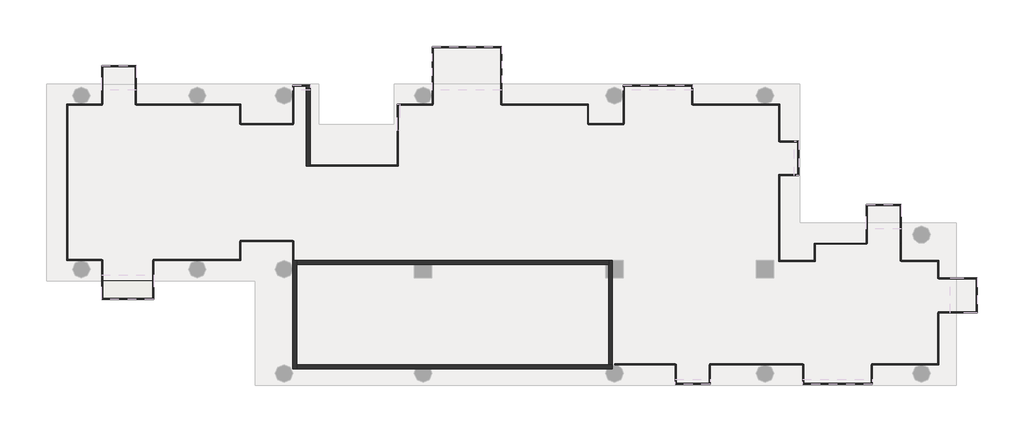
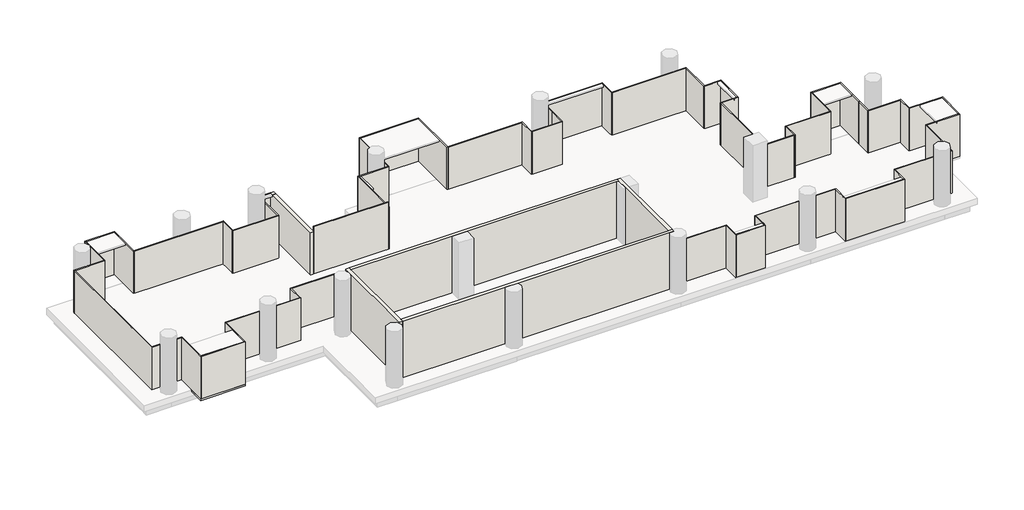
# One storey, part 1 of 2: 64 walls, 2 slabs.
"""IFC4 building model written with IfcOpenShell, lengths in millimetres."""

from ifc_helpers import new_model, si_unit, frame, origin, place, context, project, spatial, polyline, outline, extrude, faceted_brep, element, save

model = new_model("IFC4")

# Units and contexts
model_context = context("Model", 3, world=origin())
ifc_project = project(units=[si_unit("LENGTHUNIT", "METRE", prefix="MILLI")], contexts=[model_context])

# Site, building, storey
site = spatial("IfcSite", under=ifc_project)
building = spatial("IfcBuilding", under=site)
storey = spatial("IfcBuildingStorey", under=building, Name="TW-L 14", Elevation=49599.9999686)

# Slabs
placement = place(None, origin())
element("IfcSlab", 1, ObjectType="AJN-ARC-SLAB-10cm", at=placement, inside=storey, context=model_context, shape_type="SweptSolid", body=[
    extrude(outline(polyline([(105847.1743518, 28750.0), (103147.1743518, 28750.0), (103147.1743518, 29700.0), (105847.1743518, 29700.0), (105847.1743518, 28750.0)])), frame((0.0, 0.0, 49499.9999686), z_axis=(0.0, 0.0, 1.0), x_axis=(1.0, 0.0, 0.0)), (0.0, 0.0, 1.0), 100.0),
])
element("IfcSlab", 2, ObjectType="AJN-ARC-SLAB-10cm", at=placement, inside=storey, context=model_context, shape_type="SweptSolid", body=[
    extrude(outline(polyline([(105847.1743518, 28750.0), (103147.1743518, 28750.0), (103147.1743518, 29700.0), (105847.1743518, 29700.0), (105847.1743518, 28750.0)])), frame((0.0, 0.0, 49499.9999686), z_axis=(0.0, 0.0, 1.0), x_axis=(1.0, 0.0, 0.0)), (0.0, 0.0, 1.0), 100.0),
])

# Walls
element("IfcWall", 3, ObjectType="AJN-ARC-CONCRETE WALL-20cm", at=placement, inside=storey, context=model_context, shape_type="Brep", body=[
    faceted_brep([(113050.0, 30750.0, 53199.9999686), (113050.0, 30750.0, 49599.9999686), (113050.0, 25150.0, 49599.9999686), (113050.0, 25150.0, 53199.9999686), (113250.0, 30750.0, 49599.9999686), (113250.0, 30750.0, 53199.9999686), (113250.0, 30550.0, 53199.9999686), (113250.0, 25350.0, 53199.9999686), (113250.0, 25150.0, 53199.9999686), (113250.0, 25150.0, 49599.9999686), (113250.0, 25350.0, 49599.9999686), (113250.0, 30550.0, 49599.9999686), (113097.1743518, 30750.0, 49599.9999686)], [[[0, 1, 2, 3]], [[4, 5, 6, 7, 8, 9, 10, 11]], [[2, 1, 12, 4, 11, 10, 9]], [[0, 3, 8, 7, 6, 5]], [[3, 2, 9, 8]], [[0, 5, 4, 12, 1]]]),
])
element("IfcWall", 4, ObjectType="AJN-ARC-CONCRETE WALL-20cm", at=placement, inside=storey, context=model_context, shape_type="Brep", body=[
    faceted_brep([(113250.0, 25150.0, 49599.9999686), (119425.8342613, 25150.0, 49599.9999686), (120174.1657387, 25150.0, 49599.9999686), (129325.8342613, 25150.0, 49599.9999686), (129600.0, 25150.0, 49599.9999686), (129600.0, 25150.0, 53199.9999686), (129325.8342613, 25150.0, 53199.9999686), (120174.1657387, 25150.0, 53199.9999686), (119425.8342613, 25150.0, 53199.9999686), (113250.0, 25150.0, 53199.9999686), (113250.0, 25350.0, 49599.9999686), (113250.0, 25350.0, 53199.9999686), (129400.0, 25350.0, 53199.9999686), (129600.0, 25350.0, 53199.9999686), (129600.0, 25350.0, 49599.9999686), (129400.0, 25350.0, 49599.9999686), (129600.0, 25338.7482194, 49599.9999686), (129600.0, 25338.7482194, 53199.9999686)], [[[0, 1, 2, 3, 4, 5, 6, 7, 8, 9]], [[10, 11, 12, 13, 14, 15]], [[4, 3, 2, 1, 0, 10, 15, 14, 16]], [[9, 8, 7, 6, 5, 17, 13, 12, 11]], [[5, 4, 16, 14, 13, 17]], [[0, 9, 11, 10]]]),
])
element("IfcWall", 5, ObjectType="AJN-ARC-CONCRETE WALL-20cm", at=placement, inside=storey, context=model_context, shape_type="Brep", body=[
    faceted_brep([(129600.0, 25350.0, 49599.9999686), (129600.0, 29850.0, 49599.9999686), (129600.0, 30750.0, 49599.9999686), (129600.0, 30750.0, 53199.9999686), (129600.0, 29850.0, 53199.9999686), (129600.0, 25350.0, 53199.9999686), (129400.0, 25350.0, 49599.9999686), (129400.0, 25350.0, 53199.9999686), (129400.0, 29850.0, 53199.9999686), (129400.0, 30550.0, 53199.9999686), (129400.0, 30750.0, 53199.9999686), (129400.0, 30750.0, 49599.9999686), (129400.0, 30550.0, 49599.9999686), (129400.0, 29850.0, 49599.9999686)], [[[0, 1, 2, 3, 4, 5]], [[6, 7, 8, 9, 10, 11, 12, 13]], [[2, 1, 0, 6, 13, 12, 11]], [[5, 4, 3, 10, 9, 8, 7]], [[3, 2, 11, 10]], [[0, 5, 7, 6]]]),
])
element("IfcWall", 6, ObjectType="AJN-ARC-CONCRETE WALL-20cm", at=placement, inside=storey, context=model_context, shape_type="Brep", body=[
    faceted_brep([(129400.0, 30750.0, 49599.9999686), (113250.0, 30750.0, 49599.9999686), (113250.0, 30750.0, 53199.9999686), (129400.0, 30750.0, 53199.9999686), (129400.0, 30550.0, 49599.9999686), (129400.0, 30550.0, 53199.9999686), (129250.0, 30550.0, 53199.9999686), (120250.0, 30550.0, 53199.9999686), (119350.0, 30550.0, 53199.9999686), (113250.0, 30550.0, 53199.9999686), (113250.0, 30550.0, 49599.9999686), (119350.0, 30550.0, 49599.9999686), (120250.0, 30550.0, 49599.9999686), (129250.0, 30550.0, 49599.9999686)], [[[0, 1, 2, 3]], [[4, 5, 6, 7, 8, 9, 10, 11, 12, 13]], [[1, 0, 4, 13, 12, 11, 10]], [[3, 2, 9, 8, 7, 6, 5]], [[0, 3, 5, 4]], [[1, 10, 9, 2]]]),
])
element("IfcWall", 7, ObjectType="AJN-ARC-CONCRETE WALL-20cm", at=placement, inside=storey, context=model_context, shape_type="Brep", body=[
    faceted_brep([(113950.0, 35650.0, 49599.9999686), (113950.0, 39850.0, 49599.9999686), (113950.0, 39850.0, 52299.9999686), (113950.0, 35650.0, 52299.9999686), (113750.0, 35650.0, 49599.9999686), (113750.0, 35650.0, 52299.9999686), (113750.0, 39800.0, 52299.9999686), (113750.0, 39850.0, 52299.9999686), (113750.0, 39850.0, 49599.9999686), (113750.0, 39800.0, 49599.9999686)], [[[0, 1, 2, 3]], [[4, 5, 6, 7, 8, 9]], [[1, 0, 4, 9, 8]], [[3, 2, 7, 6, 5]], [[0, 3, 5, 4]], [[2, 1, 8, 7]]]),
])
element("IfcWall", 8, ObjectType="AJN-ARC-GLASS-50mm", at=placement, inside=storey, context=model_context, shape_type="SweptSolid", body=[
    extrude(outline(polyline([(113100.0, 39850.0), (113750.0, 39850.0), (113750.0, 39800.0), (113100.0, 39800.0), (113100.0, 39850.0)])), frame((0.0, 0.0, 49599.9999686), z_axis=(0.0, 0.0, 1.0), x_axis=(1.0, 0.0, 0.0)), (0.0, 0.0, 1.0), 2700.0),
])
element("IfcWall", 9, ObjectType="AJN-ARC-GLASS-50mm", at=placement, inside=storey, context=model_context, shape_type="Brep", body=[
    faceted_brep([(113050.0, 39850.0, 49599.9999686), (113050.0, 37850.0, 49599.9999686), (113050.0, 37850.0, 52299.9999686), (113050.0, 39850.0, 52299.9999686), (113100.0, 39850.0, 49599.9999686), (113100.0, 39850.0, 52299.9999686), (113100.0, 39800.0, 52299.9999686), (113100.0, 37850.0, 52299.9999686), (113100.0, 37850.0, 49599.9999686), (113100.0, 39800.0, 49599.9999686)], [[[0, 1, 2, 3]], [[4, 5, 6, 7, 8, 9]], [[1, 0, 4, 9, 8]], [[2, 1, 8, 7]], [[3, 2, 7, 6, 5]], [[0, 3, 5, 4]]]),
])
element("IfcWall", 10, ObjectType="AJN-ARC-GLASS-50mm", at=placement, inside=storey, context=model_context, shape_type="SweptSolid", body=[
    extrude(outline(polyline([(110350.0, 37850.0), (113075.0, 37850.0), (113075.0, 37800.0), (110350.0, 37800.0), (110350.0, 37850.0)])), frame((0.0, 0.0, 49599.9999686), z_axis=(0.0, 0.0, 1.0), x_axis=(1.0, 0.0, 0.0)), (0.0, 0.0, 1.0), 2700.0),
])
element("IfcWall", 11, ObjectType="AJN-ARC-GLASS-50mm", at=placement, inside=storey, context=model_context, shape_type="Brep", body=[
    faceted_brep([(110350.0, 37825.0, 49599.9999686), (110350.0, 38850.0, 49599.9999686), (110350.0, 38850.0, 52299.9999686), (110350.0, 37825.0, 52299.9999686), (110300.0, 37825.0, 49599.9999686), (110300.0, 37825.0, 52299.9999686), (110300.0, 38800.0, 52299.9999686), (110300.0, 38850.0, 52299.9999686), (110300.0, 38850.0, 49599.9999686), (110300.0, 38800.0, 49599.9999686)], [[[0, 1, 2, 3]], [[4, 5, 6, 7, 8, 9]], [[1, 0, 4, 9, 8]], [[3, 2, 7, 6, 5]], [[0, 3, 5, 4]], [[2, 1, 8, 7]]]),
])
element("IfcWall", 12, ObjectType="AJN-ARC-GLASS-50mm", at=placement, inside=storey, context=model_context, shape_type="SweptSolid", body=[
    extrude(outline(polyline([(104950.0, 38850.0), (110300.0, 38850.0), (110300.0, 38800.0), (104950.0, 38800.0), (104950.0, 38850.0)])), frame((0.0, 0.0, 49599.9999686), z_axis=(0.0, 0.0, 1.0), x_axis=(1.0, 0.0, 0.0)), (0.0, 0.0, 1.0), 2700.0),
])
element("IfcWall", 13, ObjectType="AJN-ARC-GLASS-50mm", at=placement, inside=storey, context=model_context, shape_type="Brep", body=[
    faceted_brep([(104950.0, 38825.0, 49599.9999686), (104950.0, 40850.0, 49599.9999686), (104950.0, 40850.0, 52299.9999686), (104950.0, 38825.0, 52299.9999686), (104900.0, 38825.0, 49599.9999686), (104900.0, 38825.0, 52299.9999686), (104900.0, 40800.0, 52299.9999686), (104900.0, 40850.0, 52299.9999686), (104900.0, 40850.0, 49599.9999686), (104900.0, 40800.0, 49599.9999686)], [[[0, 1, 2, 3]], [[4, 5, 6, 7, 8, 9]], [[1, 0, 4, 9, 8]], [[3, 2, 7, 6, 5]], [[0, 3, 5, 4]], [[2, 1, 8, 7]]]),
])
element("IfcWall", 14, ObjectType="AJN-ARC-GLASS-50mm", at=placement, inside=storey, context=model_context, shape_type="Brep", body=[
    faceted_brep([(104900.0, 40850.0, 49599.9999686), (103150.0, 40850.0, 49599.9999686), (103150.0, 40850.0, 52299.9999686), (104900.0, 40850.0, 52299.9999686), (104900.0, 40800.0, 49599.9999686), (104900.0, 40800.0, 52299.9999686), (103200.0, 40800.0, 52299.9999686), (103150.0, 40800.0, 52299.9999686), (103150.0, 40800.0, 49599.9999686), (103200.0, 40800.0, 49599.9999686)], [[[0, 1, 2, 3]], [[4, 5, 6, 7, 8, 9]], [[1, 0, 4, 9, 8]], [[3, 2, 7, 6, 5]], [[2, 1, 8, 7]], [[0, 3, 5, 4]]]),
])
element("IfcWall", 15, ObjectType="AJN-ARC-GLASS-50mm", at=placement, inside=storey, context=model_context, shape_type="SweptSolid", body=[
    extrude(outline(polyline([(103150.0, 38850.0), (103150.0, 40800.0), (103200.0, 40800.0), (103200.0, 38850.0), (103150.0, 38850.0)])), frame((0.0, 0.0, 49599.9999686), z_axis=(0.0, 0.0, 1.0), x_axis=(1.0, 0.0, 0.0)), (0.0, 0.0, 1.0), 2700.0),
])
element("IfcWall", 16, ObjectType="AJN-ARC-GLASS-50mm", at=placement, inside=storey, context=model_context, shape_type="Brep", body=[
    faceted_brep([(103175.000016, 38849.999984, 49599.9999686), (101347.1743518, 38850.001152, 49599.9999686), (101347.1743518, 38850.001152, 52299.9999686), (103175.000016, 38849.999984, 52299.9999686), (103174.999984, 38799.999984, 49599.9999686), (103174.999984, 38799.999984, 52299.9999686), (101397.1743518, 38800.00112, 52299.9999686), (101347.1743518, 38800.001152, 52299.9999686), (101347.1743518, 38800.001152, 49599.9999686), (101397.1743518, 38800.00112, 49599.9999686)], [[[0, 1, 2, 3]], [[4, 5, 6, 7, 8, 9]], [[1, 0, 4, 9, 8]], [[3, 2, 7, 6, 5]], [[0, 3, 5, 4]], [[2, 1, 8, 7]]]),
])
element("IfcWall", 17, ObjectType="AJN-ARC-GLASS-50mm", at=placement, inside=storey, context=model_context, shape_type="Brep", body=[
    faceted_brep([(101347.1743518, 38800.001152, 49599.9999686), (101347.1743518, 30750.0, 49599.9999686), (101347.1743518, 30750.0, 52299.9999686), (101347.1743518, 38800.001152, 52299.9999686), (101397.1743518, 38800.00112, 49599.9999686), (101397.1743518, 38800.00112, 52299.9999686), (101397.1743518, 30800.0, 52299.9999686), (101397.1743518, 30750.0, 52299.9999686), (101397.1743518, 30750.0, 49599.9999686), (101397.1743518, 30800.0, 49599.9999686)], [[[0, 1, 2, 3]], [[4, 5, 6, 7, 8, 9]], [[1, 0, 4, 9, 8]], [[3, 2, 7, 6, 5]], [[2, 1, 8, 7]], [[0, 3, 5, 4]]]),
])
element("IfcWall", 18, ObjectType="AJN-ARC-GLASS-50mm", at=placement, inside=storey, context=model_context, shape_type="SweptSolid", body=[
    extrude(outline(polyline([(103147.1743518, 30750.0), (101397.1743518, 30750.0), (101397.1743518, 30800.0), (103147.1743518, 30800.0), (103147.1743518, 30750.0)])), frame((0.0, 0.0, 49599.9999686), z_axis=(0.0, 0.0, 1.0), x_axis=(1.0, 0.0, 0.0)), (0.0, 0.0, 1.0), 2700.0),
])
element("IfcWall", 19, ObjectType="AJN-ARC-GLASS-50mm", at=placement, inside=storey, context=model_context, shape_type="Brep", body=[
    faceted_brep([(103147.1743518, 30775.0, 49599.9999686), (103147.1743518, 28750.0, 49599.9999686), (103147.1743518, 28750.0, 52299.9999686), (103147.1743518, 30775.0, 52299.9999686), (103197.1743518, 30775.0, 49599.9999686), (103197.1743518, 30775.0, 52299.9999686), (103197.1743518, 28800.0, 52299.9999686), (103197.1743518, 28750.0, 52299.9999686), (103197.1743518, 28750.0, 49599.9999686), (103197.1743518, 28800.0, 49599.9999686)], [[[0, 1, 2, 3]], [[4, 5, 6, 7, 8, 9]], [[1, 0, 4, 9, 8]], [[3, 2, 7, 6, 5]], [[0, 3, 5, 4]], [[2, 1, 8, 7]]]),
])
element("IfcWall", 20, ObjectType="AJN-ARC-GLASS-50mm", at=placement, inside=storey, context=model_context, shape_type="Brep", body=[
    faceted_brep([(103197.1743518, 28750.0, 49599.9999686), (105847.1743518, 28750.0, 49599.9999686), (105847.1743518, 28750.0, 52299.9999686), (103197.1743518, 28750.0, 52299.9999686), (103197.1743518, 28800.0, 49599.9999686), (103197.1743518, 28800.0, 52299.9999686), (105797.1743518, 28800.0, 52299.9999686), (105847.1743518, 28800.0, 52299.9999686), (105847.1743518, 28800.0, 49599.9999686), (105797.1743518, 28800.0, 49599.9999686)], [[[0, 1, 2, 3]], [[4, 5, 6, 7, 8, 9]], [[1, 0, 4, 9, 8]], [[3, 2, 7, 6, 5]], [[2, 1, 8, 7]], [[0, 3, 5, 4]]]),
])
element("IfcWall", 21, ObjectType="AJN-ARC-GLASS-50mm", at=placement, inside=storey, context=model_context, shape_type="SweptSolid", body=[
    extrude(outline(polyline([(105847.1743518, 30750.0), (105847.1743518, 28800.0), (105797.1743518, 28800.0), (105797.1743518, 30750.0), (105847.1743518, 30750.0)])), frame((0.0, 0.0, 49599.9999686), z_axis=(0.0, 0.0, 1.0), x_axis=(1.0, 0.0, 0.0)), (0.0, 0.0, 1.0), 2700.0),
])
element("IfcWall", 22, ObjectType="AJN-ARC-GLASS-50mm", at=placement, inside=storey, context=model_context, shape_type="Brep", body=[
    faceted_brep([(105822.1743518, 30750.0, 49599.9999686), (110347.1743518, 30750.0, 49599.9999686), (110347.1743518, 30750.0, 52299.9999686), (105822.1743518, 30750.0, 52299.9999686), (105822.1743518, 30800.0, 49599.9999686), (105822.1743518, 30800.0, 52299.9999686), (110297.1743518, 30800.0, 52299.9999686), (110347.1743518, 30800.0, 52299.9999686), (110347.1743518, 30800.0, 49599.9999686), (110297.1743518, 30800.0, 49599.9999686)], [[[0, 1, 2, 3]], [[4, 5, 6, 7, 8, 9]], [[1, 0, 4, 9, 8]], [[3, 2, 7, 6, 5]], [[0, 3, 5, 4]], [[2, 1, 8, 7]]]),
])
element("IfcWall", 23, ObjectType="AJN-ARC-GLASS-50mm", at=placement, inside=storey, context=model_context, shape_type="SweptSolid", body=[
    extrude(outline(polyline([(110347.1743518, 31750.0), (110347.1743518, 30800.0), (110297.1743518, 30800.0), (110297.1743518, 31750.0), (110347.1743518, 31750.0)])), frame((0.0, 0.0, 49599.9999686), z_axis=(0.0, 0.0, 1.0), x_axis=(1.0, 0.0, 0.0)), (0.0, 0.0, 1.0), 2700.0),
])
element("IfcWall", 24, ObjectType="AJN-ARC-GLASS-50mm", at=placement, inside=storey, context=model_context, shape_type="SweptSolid", body=[
    extrude(outline(polyline([(113047.1743518, 31750.0), (110322.1743518, 31750.0), (110322.1743518, 31800.0), (113047.1743518, 31800.0), (113047.1743518, 31750.0)])), frame((0.0, 0.0, 49599.9999686), z_axis=(0.0, 0.0, 1.0), x_axis=(1.0, 0.0, 0.0)), (0.0, 0.0, 1.0), 2700.0),
])
element("IfcWall", 25, ObjectType="AJN-ARC-GLASS-50mm", at=placement, inside=storey, context=model_context, shape_type="Brep", body=[
    faceted_brep([(113047.1743518, 31775.0, 49599.9999686), (113047.1743518, 30750.0, 49599.9999686), (113047.1743518, 30750.0, 52299.9999686), (113047.1743518, 31775.0, 52299.9999686), (113097.1743518, 31775.0, 49599.9999686), (113097.1743518, 31775.0, 52299.9999686), (113097.1743518, 30750.0, 52299.9999686), (113097.1743518, 30750.0, 49599.9999686), (113050.0, 30750.0, 49599.9999686)], [[[0, 1, 2, 3]], [[4, 5, 6, 7]], [[1, 0, 4, 7, 8]], [[3, 2, 6, 5]], [[0, 3, 5, 4]], [[2, 1, 8, 7, 6]]]),
])
element("IfcWall", 26, ObjectType="AJN-ARC-GLASS-50mm", at=placement, inside=storey, context=model_context, shape_type="Brep", body=[
    faceted_brep([(138250.0, 30700.0, 49599.9999686), (138250.0, 30750.0, 49599.9999686), (138250.0, 35150.0, 49599.9999686), (138250.0, 35150.0, 52299.9999686), (138250.0, 30750.0, 52299.9999686), (138250.0, 30700.0, 52299.9999686), (138200.0, 30700.0, 49599.9999686), (138200.0, 30700.0, 52299.9999686), (138200.0, 35150.0, 52299.9999686), (138200.0, 35150.0, 49599.9999686)], [[[0, 1, 2, 3, 4, 5]], [[6, 7, 8, 9]], [[2, 1, 0, 6, 9]], [[5, 4, 3, 8, 7]], [[0, 5, 7, 6]], [[3, 2, 9, 8]]]),
])
element("IfcWall", 27, ObjectType="AJN-ARC-GLASS-50mm", at=placement, inside=storey, context=model_context, shape_type="Brep", body=[
    faceted_brep([(138200.0, 35150.0, 49599.9999686), (138250.0, 35150.0, 49599.9999686), (139250.0, 35150.0, 49599.9999686), (139250.0, 35150.0, 52299.9999686), (138250.0, 35150.0, 52299.9999686), (138200.0, 35150.0, 52299.9999686), (138200.0, 35200.0, 49599.9999686), (138200.0, 35200.0, 52299.9999686), (139200.0, 35200.0, 52299.9999686), (139250.0, 35200.0, 52299.9999686), (139250.0, 35200.0, 49599.9999686), (139200.0, 35200.0, 49599.9999686)], [[[0, 1, 2, 3, 4, 5]], [[6, 7, 8, 9, 10, 11]], [[2, 1, 0, 6, 11, 10]], [[5, 4, 3, 9, 8, 7]], [[3, 2, 10, 9]], [[0, 5, 7, 6]]]),
])
element("IfcWall", 28, ObjectType="AJN-ARC-GLASS-50mm", at=placement, inside=storey, context=model_context, shape_type="Brep", body=[
    faceted_brep([(139250.0, 35200.0, 49599.9999686), (139250.0, 36950.0, 49599.9999686), (139250.0, 36950.0, 52299.9999686), (139250.0, 35200.0, 52299.9999686), (139200.0, 35200.0, 49599.9999686), (139200.0, 35200.0, 52299.9999686), (139200.0, 36900.0, 52299.9999686), (139200.0, 36950.0, 52299.9999686), (139200.0, 36950.0, 49599.9999686), (139200.0, 36900.0, 49599.9999686)], [[[0, 1, 2, 3]], [[4, 5, 6, 7, 8, 9]], [[1, 0, 4, 9, 8]], [[3, 2, 7, 6, 5]], [[2, 1, 8, 7]], [[0, 3, 5, 4]]]),
])
element("IfcWall", 29, ObjectType="AJN-ARC-GLASS-50mm", at=placement, inside=storey, context=model_context, shape_type="SweptSolid", body=[
    extrude(outline(polyline([(138250.0, 36950.0), (139200.0, 36950.0), (139200.0, 36900.0), (138250.0, 36900.0), (138250.0, 36950.0)])), frame((0.0, 0.0, 49599.9999686), z_axis=(0.0, 0.0, 1.0), x_axis=(1.0, 0.0, 0.0)), (0.0, 0.0, 1.0), 2700.0),
])
element("IfcWall", 30, ObjectType="AJN-ARC-GLASS-50mm", at=placement, inside=storey, context=model_context, shape_type="Brep", body=[
    faceted_brep([(138250.0, 36925.0, 49599.9999686), (138250.0, 38850.0, 49599.9999686), (138250.0, 38850.0, 52299.9999686), (138250.0, 36925.0, 52299.9999686), (138200.0, 36925.0, 49599.9999686), (138200.0, 36925.0, 52299.9999686), (138200.0, 38800.0, 52299.9999686), (138200.0, 38850.0, 52299.9999686), (138200.0, 38850.0, 49599.9999686), (138200.0, 38800.0, 49599.9999686)], [[[0, 1, 2, 3]], [[4, 5, 6, 7, 8, 9]], [[1, 0, 4, 9, 8]], [[3, 2, 7, 6, 5]], [[0, 3, 5, 4]], [[2, 1, 8, 7]]]),
])
element("IfcWall", 31, ObjectType="AJN-ARC-GLASS-50mm", at=placement, inside=storey, context=model_context, shape_type="SweptSolid", body=[
    extrude(outline(polyline([(133759.0442395, 38850.0), (138200.0, 38850.0), (138200.0, 38800.0), (133759.0442395, 38800.0), (133759.0442395, 38850.0)])), frame((0.0, 0.0, 49599.9999686), z_axis=(0.0, 0.0, 1.0), x_axis=(1.0, 0.0, 0.0)), (0.0, 0.0, 1.0), 2700.0),
])
element("IfcWall", 32, ObjectType="AJN-ARC-GLASS-50mm", at=placement, inside=storey, context=model_context, shape_type="Brep", body=[
    faceted_brep([(133759.0442395, 38825.0, 49599.9999686), (133759.0442395, 39850.0, 49599.9999686), (133759.0442395, 39850.0, 52299.9999686), (133759.0442395, 38825.0, 52299.9999686), (133709.0442395, 38825.0, 49599.9999686), (133709.0442395, 38825.0, 52299.9999686), (133709.0442395, 39800.0, 52299.9999686), (133709.0442395, 39850.0, 52299.9999686), (133709.0442395, 39850.0, 49599.9999686), (133709.0442395, 39800.0, 49599.9999686)], [[[0, 1, 2, 3]], [[4, 5, 6, 7, 8, 9]], [[1, 0, 4, 9, 8]], [[3, 2, 7, 6, 5]], [[0, 3, 5, 4]], [[2, 1, 8, 7]]]),
])
element("IfcWall", 33, ObjectType="AJN-ARC-GLASS-50mm", at=placement, inside=storey, context=model_context, shape_type="Brep", body=[
    faceted_brep([(133709.0442395, 39850.0, 49599.9999686), (130159.0442395, 39850.0, 49599.9999686), (130159.0442395, 39850.0, 52299.9999686), (133709.0442395, 39850.0, 52299.9999686), (133709.0442395, 39800.0, 49599.9999686), (133709.0442395, 39800.0, 52299.9999686), (130209.0442395, 39800.0, 52299.9999686), (130159.0442395, 39800.0, 52299.9999686), (130159.0442395, 39800.0, 49599.9999686), (130209.0442395, 39800.0, 49599.9999686)], [[[0, 1, 2, 3]], [[4, 5, 6, 7, 8, 9]], [[1, 0, 4, 9, 8]], [[3, 2, 7, 6, 5]], [[2, 1, 8, 7]], [[0, 3, 5, 4]]]),
])
element("IfcWall", 34, ObjectType="AJN-ARC-GLASS-50mm", at=placement, inside=storey, context=model_context, shape_type="SweptSolid", body=[
    extrude(outline(polyline([(130159.0442395, 38850.0), (130159.0442395, 39800.0), (130209.0442395, 39800.0), (130209.0442395, 38850.0), (130159.0442395, 38850.0)])), frame((0.0, 0.0, 49599.9999686), z_axis=(0.0, 0.0, 1.0), x_axis=(1.0, 0.0, 0.0)), (0.0, 0.0, 1.0), 2700.0),
])
element("IfcWall", 35, ObjectType="AJN-ARC-GLASS-50mm", at=placement, inside=storey, context=model_context, shape_type="SweptSolid", body=[
    extrude(outline(polyline([(130159.0442395, 37850.0), (130159.0442395, 38850.0), (130209.0442395, 38850.0), (130209.0442395, 37850.0), (130159.0442395, 37850.0)])), frame((0.0, 0.0, 49599.9999686), z_axis=(0.0, 0.0, 1.0), x_axis=(1.0, 0.0, 0.0)), (0.0, 0.0, 1.0), 2700.0),
])
element("IfcWall", 36, ObjectType="AJN-ARC-GLASS-50mm", at=placement, inside=storey, context=model_context, shape_type="SweptSolid", body=[
    extrude(outline(polyline([(128359.0442395, 37850.0), (130184.0442395, 37850.0), (130184.0442395, 37800.0), (128359.0442395, 37800.0), (128359.0442395, 37850.0)])), frame((0.0, 0.0, 49599.9999686), z_axis=(0.0, 0.0, 1.0), x_axis=(1.0, 0.0, 0.0)), (0.0, 0.0, 1.0), 2700.0),
])
element("IfcWall", 37, ObjectType="AJN-ARC-GLASS-50mm", at=placement, inside=storey, context=model_context, shape_type="Brep", body=[
    faceted_brep([(128359.0442395, 37825.0, 49599.9999686), (128359.0442395, 38850.0, 49599.9999686), (128359.0442395, 38850.0, 52299.9999686), (128359.0442395, 37825.0, 52299.9999686), (128309.0442395, 37825.0, 49599.9999686), (128309.0442395, 37825.0, 52299.9999686), (128309.0442395, 38800.0, 52299.9999686), (128309.0442395, 38850.0, 52299.9999686), (128309.0442395, 38850.0, 49599.9999686), (128309.0442395, 38800.0, 49599.9999686)], [[[0, 1, 2, 3]], [[4, 5, 6, 7, 8, 9]], [[1, 0, 4, 9, 8]], [[3, 2, 7, 6, 5]], [[0, 3, 5, 4]], [[2, 1, 8, 7]]]),
])
element("IfcWall", 38, ObjectType="AJN-ARC-GLASS-50mm", at=placement, inside=storey, context=model_context, shape_type="SweptSolid", body=[
    extrude(outline(polyline([(123862.058986, 38850.0), (128309.0442395, 38850.0), (128309.0442395, 38800.0), (123862.058986, 38800.0), (123862.058986, 38850.0)])), frame((0.0, 0.0, 49599.9999686), z_axis=(0.0, 0.0, 1.0), x_axis=(1.0, 0.0, 0.0)), (0.0, 0.0, 1.0), 2700.0),
])
element("IfcWall", 39, ObjectType="AJN-ARC-GLASS-50mm", at=placement, inside=storey, context=model_context, shape_type="Brep", body=[
    faceted_brep([(123862.058986, 38825.0, 49599.9999686), (123862.058986, 41850.0, 49599.9999686), (123862.058986, 41850.0, 52299.9999686), (123862.058986, 38825.0, 52299.9999686), (123812.058986, 38825.0, 49599.9999686), (123812.058986, 38825.0, 52299.9999686), (123812.058986, 41800.0, 52299.9999686), (123812.058986, 41850.0, 52299.9999686), (123812.058986, 41850.0, 49599.9999686), (123812.058986, 41800.0, 49599.9999686)], [[[0, 1, 2, 3]], [[4, 5, 6, 7, 8, 9]], [[1, 0, 4, 9, 8]], [[3, 2, 7, 6, 5]], [[0, 3, 5, 4]], [[2, 1, 8, 7]]]),
])
element("IfcWall", 40, ObjectType="AJN-ARC-GLASS-50mm", at=placement, inside=storey, context=model_context, shape_type="Brep", body=[
    faceted_brep([(123812.058986, 41850.0, 49599.9999686), (120262.058986, 41850.0, 49599.9999686), (120262.058986, 41850.0, 52299.9999686), (123812.058986, 41850.0, 52299.9999686), (123812.058986, 41800.0, 49599.9999686), (123812.058986, 41800.0, 52299.9999686), (120312.058986, 41800.0, 52299.9999686), (120262.058986, 41800.0, 52299.9999686), (120262.058986, 41800.0, 49599.9999686), (120312.058986, 41800.0, 49599.9999686)], [[[0, 1, 2, 3]], [[4, 5, 6, 7, 8, 9]], [[1, 0, 4, 9, 8]], [[3, 2, 7, 6, 5]], [[2, 1, 8, 7]], [[0, 3, 5, 4]]]),
])
element("IfcWall", 41, ObjectType="AJN-ARC-GLASS-50mm", at=placement, inside=storey, context=model_context, shape_type="SweptSolid", body=[
    extrude(outline(polyline([(120262.058986, 38850.0), (120262.058986, 41800.0), (120312.058986, 41800.0), (120312.058986, 38850.0), (120262.058986, 38850.0)])), frame((0.0, 0.0, 49599.9999686), z_axis=(0.0, 0.0, 1.0), x_axis=(1.0, 0.0, 0.0)), (0.0, 0.0, 1.0), 2700.0),
])
element("IfcWall", 42, ObjectType="AJN-ARC-GLASS-50mm", at=placement, inside=storey, context=model_context, shape_type="Brep", body=[
    faceted_brep([(120287.058986, 38850.0, 49599.9999686), (118450.0, 38850.0, 49599.9999686), (118450.0, 38850.0, 52299.9999686), (120287.058986, 38850.0, 52299.9999686), (120287.058986, 38800.0, 49599.9999686), (120287.058986, 38800.0, 52299.9999686), (118500.0, 38800.0, 52299.9999686), (118450.0, 38800.0, 52299.9999686), (118450.0, 38800.0, 49599.9999686), (118500.0, 38800.0, 49599.9999686)], [[[0, 1, 2, 3]], [[4, 5, 6, 7, 8, 9]], [[1, 0, 4, 9, 8]], [[3, 2, 7, 6, 5]], [[0, 3, 5, 4]], [[2, 1, 8, 7]]]),
])
element("IfcWall", 43, ObjectType="AJN-ARC-GLASS-50mm", at=placement, inside=storey, context=model_context, shape_type="SweptSolid", body=[
    extrude(outline(polyline([(132850.3171747, 25350.0), (129714.068817, 25350.0), (129714.068817, 25400.0), (132850.3171747, 25400.0), (132850.3171747, 25350.0)])), frame((0.0, 0.0, 49599.9999686), z_axis=(0.0, 0.0, 1.0), x_axis=(1.0, 0.0, 0.0)), (0.0, 0.0, 1.0), 2700.0),
])
element("IfcWall", 44, ObjectType="AJN-ARC-GLASS-50mm", at=placement, inside=storey, context=model_context, shape_type="Brep", body=[
    faceted_brep([(132850.3171747, 25375.0, 49599.9999686), (132850.3171747, 24350.0, 49599.9999686), (132850.3171747, 24350.0, 52299.9999686), (132850.3171747, 25375.0, 52299.9999686), (132900.3171747, 25375.0, 49599.9999686), (132900.3171747, 25375.0, 52299.9999686), (132900.3171747, 24400.0, 52299.9999686), (132900.3171747, 24350.0, 52299.9999686), (132900.3171747, 24350.0, 49599.9999686), (132900.3171747, 24400.0, 49599.9999686)], [[[0, 1, 2, 3]], [[4, 5, 6, 7, 8, 9]], [[1, 0, 4, 9, 8]], [[3, 2, 7, 6, 5]], [[0, 3, 5, 4]], [[2, 1, 8, 7]]]),
])
element("IfcWall", 45, ObjectType="AJN-ARC-GLASS-50mm", at=placement, inside=storey, context=model_context, shape_type="Brep", body=[
    faceted_brep([(132900.3171747, 24350.0, 49599.9999686), (134650.3171747, 24350.0, 49599.9999686), (134650.3171747, 24350.0, 52299.9999686), (132900.3171747, 24350.0, 52299.9999686), (132900.3171747, 24400.0, 49599.9999686), (132900.3171747, 24400.0, 52299.9999686), (134600.3171747, 24400.0, 52299.9999686), (134650.3171747, 24400.0, 52299.9999686), (134650.3171747, 24400.0, 49599.9999686), (134600.3171747, 24400.0, 49599.9999686)], [[[0, 1, 2, 3]], [[4, 5, 6, 7, 8, 9]], [[1, 0, 4, 9, 8]], [[3, 2, 7, 6, 5]], [[2, 1, 8, 7]], [[0, 3, 5, 4]]]),
])
element("IfcWall", 46, ObjectType="AJN-ARC-GLASS-50mm", at=placement, inside=storey, context=model_context, shape_type="SweptSolid", body=[
    extrude(outline(polyline([(134650.3171747, 25350.0), (134650.3171747, 24400.0), (134600.3171747, 24400.0), (134600.3171747, 25350.0), (134650.3171747, 25350.0)])), frame((0.0, 0.0, 49599.9999686), z_axis=(0.0, 0.0, 1.0), x_axis=(1.0, 0.0, 0.0)), (0.0, 0.0, 1.0), 2700.0),
])
element("IfcWall", 47, ObjectType="AJN-ARC-GLASS-50mm", at=placement, inside=storey, context=model_context, shape_type="SweptSolid", body=[
    extrude(outline(polyline([(139450.0875187, 25350.0), (134625.3171747, 25350.0), (134625.3171747, 25400.0), (139450.0875187, 25400.0), (139450.0875187, 25350.0)])), frame((0.0, 0.0, 49599.9999686), z_axis=(0.0, 0.0, 1.0), x_axis=(1.0, 0.0, 0.0)), (0.0, 0.0, 1.0), 2700.0),
])
element("IfcWall", 48, ObjectType="AJN-ARC-GLASS-50mm", at=placement, inside=storey, context=model_context, shape_type="Brep", body=[
    faceted_brep([(139450.0875187, 25375.0, 49599.9999686), (139450.0875187, 24350.0, 49599.9999686), (139450.0875187, 24350.0, 52299.9999686), (139450.0875187, 25375.0, 52299.9999686), (139500.0875187, 25375.0, 49599.9999686), (139500.0875187, 25375.0, 52299.9999686), (139500.0875187, 24400.0, 52299.9999686), (139500.0875187, 24350.0, 52299.9999686), (139500.0875187, 24350.0, 49599.9999686), (139500.0875187, 24400.0, 49599.9999686)], [[[0, 1, 2, 3]], [[4, 5, 6, 7, 8, 9]], [[1, 0, 4, 9, 8]], [[3, 2, 7, 6, 5]], [[0, 3, 5, 4]], [[2, 1, 8, 7]]]),
])
element("IfcWall", 49, ObjectType="AJN-ARC-GLASS-50mm", at=placement, inside=storey, context=model_context, shape_type="Brep", body=[
    faceted_brep([(139500.0875187, 24350.0, 49599.9999686), (143050.0875187, 24350.0, 49599.9999686), (143050.0875187, 24350.0, 52299.9999686), (139500.0875187, 24350.0, 52299.9999686), (139500.0875187, 24400.0, 49599.9999686), (139500.0875187, 24400.0, 52299.9999686), (143000.0875187, 24400.0, 52299.9999686), (143050.0875187, 24400.0, 52299.9999686), (143050.0875187, 24400.0, 49599.9999686), (143000.0875187, 24400.0, 49599.9999686)], [[[0, 1, 2, 3]], [[4, 5, 6, 7, 8, 9]], [[1, 0, 4, 9, 8]], [[3, 2, 7, 6, 5]], [[2, 1, 8, 7]], [[0, 3, 5, 4]]]),
])
element("IfcWall", 50, ObjectType="AJN-ARC-GLASS-50mm", at=placement, inside=storey, context=model_context, shape_type="SweptSolid", body=[
    extrude(outline(polyline([(143050.0875187, 25350.0), (143050.0875187, 24400.0), (143000.0875187, 24400.0), (143000.0875187, 25350.0), (143050.0875187, 25350.0)])), frame((0.0, 0.0, 49599.9999686), z_axis=(0.0, 0.0, 1.0), x_axis=(1.0, 0.0, 0.0)), (0.0, 0.0, 1.0), 2700.0),
])
element("IfcWall", 51, ObjectType="AJN-ARC-GLASS-50mm", at=placement, inside=storey, context=model_context, shape_type="Brep", body=[
    faceted_brep([(143025.0875187, 25350.0, 49599.9999686), (146497.681474, 25350.0, 49599.9999686), (146497.681474, 25350.0, 52299.9999686), (143025.0875187, 25350.0, 52299.9999686), (143025.0875187, 25400.0, 49599.9999686), (143025.0875187, 25400.0, 52299.9999686), (146447.681474, 25400.0, 52299.9999686), (146497.681474, 25400.0, 52299.9999686), (146497.681474, 25400.0, 49599.9999686), (146447.681474, 25400.0, 49599.9999686)], [[[0, 1, 2, 3]], [[4, 5, 6, 7, 8, 9]], [[1, 0, 4, 9, 8]], [[3, 2, 7, 6, 5]], [[0, 3, 5, 4]], [[2, 1, 8, 7]]]),
])
element("IfcWall", 52, ObjectType="AJN-ARC-GLASS-50mm", at=placement, inside=storey, context=model_context, shape_type="SweptSolid", body=[
    extrude(outline(polyline([(146497.681474, 28048.7282176), (146497.681474, 25400.0), (146447.681474, 25400.0), (146447.681474, 28048.7282176), (146497.681474, 28048.7282176)])), frame((0.0, 0.0, 49599.9999686), z_axis=(0.0, 0.0, 1.0), x_axis=(1.0, 0.0, 0.0)), (0.0, 0.0, 1.0), 2700.0),
])
element("IfcWall", 53, ObjectType="AJN-ARC-GLASS-50mm", at=placement, inside=storey, context=model_context, shape_type="Brep", body=[
    faceted_brep([(146472.681474, 28048.7282176, 49599.9999686), (148497.681474, 28048.7282176, 49599.9999686), (148497.681474, 28048.7282176, 52299.9999686), (146472.681474, 28048.7282176, 52299.9999686), (146472.681474, 28098.7282176, 49599.9999686), (146472.681474, 28098.7282176, 52299.9999686), (148447.681474, 28098.7282176, 52299.9999686), (148497.681474, 28098.7282176, 52299.9999686), (148497.681474, 28098.7282176, 49599.9999686), (148447.681474, 28098.7282176, 49599.9999686)], [[[0, 1, 2, 3]], [[4, 5, 6, 7, 8, 9]], [[1, 0, 4, 9, 8]], [[3, 2, 7, 6, 5]], [[0, 3, 5, 4]], [[2, 1, 8, 7]]]),
])
element("IfcWall", 54, ObjectType="AJN-ARC-GLASS-50mm", at=placement, inside=storey, context=model_context, shape_type="Brep", body=[
    faceted_brep([(148497.681474, 28098.7282176, 49599.9999686), (148497.681474, 29848.7282176, 49599.9999686), (148497.681474, 29848.7282176, 52299.9999686), (148497.681474, 28098.7282176, 52299.9999686), (148447.681474, 28098.7282176, 49599.9999686), (148447.681474, 28098.7282176, 52299.9999686), (148447.681474, 29798.7282176, 52299.9999686), (148447.681474, 29848.7282176, 52299.9999686), (148447.681474, 29848.7282176, 49599.9999686), (148447.681474, 29798.7282176, 49599.9999686)], [[[0, 1, 2, 3]], [[4, 5, 6, 7, 8, 9]], [[1, 0, 4, 9, 8]], [[3, 2, 7, 6, 5]], [[2, 1, 8, 7]], [[0, 3, 5, 4]]]),
])
element("IfcWall", 55, ObjectType="AJN-ARC-GLASS-50mm", at=placement, inside=storey, context=model_context, shape_type="SweptSolid", body=[
    extrude(outline(polyline([(146497.681474, 29848.7282176), (148447.681474, 29848.7282176), (148447.681474, 29798.7282176), (146497.681474, 29798.7282176), (146497.681474, 29848.7282176)])), frame((0.0, 0.0, 49599.9999686), z_axis=(0.0, 0.0, 1.0), x_axis=(1.0, 0.0, 0.0)), (0.0, 0.0, 1.0), 2700.0),
])
element("IfcWall", 56, ObjectType="AJN-ARC-GLASS-50mm", at=placement, inside=storey, context=model_context, shape_type="Brep", body=[
    faceted_brep([(146497.681474, 29823.7282176, 49599.9999686), (146497.681474, 30751.6593424, 49599.9999686), (146497.681474, 30751.6593424, 52299.9999686), (146497.681474, 29823.7282176, 52299.9999686), (146447.681474, 29823.7282176, 49599.9999686), (146447.681474, 29823.7282176, 52299.9999686), (146447.681474, 30701.6593424, 52299.9999686), (146447.681474, 30751.6593424, 52299.9999686), (146447.681474, 30751.6593424, 49599.9999686), (146447.681474, 30701.6593424, 49599.9999686)], [[[0, 1, 2, 3]], [[4, 5, 6, 7, 8, 9]], [[1, 0, 4, 9, 8]], [[3, 2, 7, 6, 5]], [[0, 3, 5, 4]], [[2, 1, 8, 7]]]),
])
element("IfcWall", 57, ObjectType="AJN-ARC-GLASS-50mm", at=placement, inside=storey, context=model_context, shape_type="SweptSolid", body=[
    extrude(outline(polyline([(144550.0445734, 30751.6593424), (146447.681474, 30751.6593424), (146447.681474, 30701.6593424), (144550.0445734, 30701.6593424), (144550.0445734, 30751.6593424)])), frame((0.0, 0.0, 49599.9999686), z_axis=(0.0, 0.0, 1.0), x_axis=(1.0, 0.0, 0.0)), (0.0, 0.0, 1.0), 2700.0),
])
element("IfcWall", 58, ObjectType="AJN-ARC-GLASS-50mm", at=placement, inside=storey, context=model_context, shape_type="SweptSolid", body=[
    extrude(outline(polyline([(144550.0445734, 31651.6593424), (144550.0445734, 30726.6593424), (144500.0445734, 30726.6593424), (144500.0445734, 31651.6593424), (144550.0445734, 31651.6593424)])), frame((0.0, 0.0, 49599.9999686), z_axis=(0.0, 0.0, 1.0), x_axis=(1.0, 0.0, 0.0)), (0.0, 0.0, 1.0), 2700.0),
])
element("IfcWall", 59, ObjectType="AJN-ARC-GLASS-50mm", at=placement, inside=storey, context=model_context, shape_type="Brep", body=[
    faceted_brep([(144550.0445734, 31651.6593424, 49599.9999686), (144550.0445734, 33651.6593424, 49599.9999686), (144550.0445734, 33651.6593424, 52299.9999686), (144550.0445734, 31651.6593424, 52299.9999686), (144500.0445734, 31651.6593424, 49599.9999686), (144500.0445734, 31651.6593424, 52299.9999686), (144500.0445734, 33601.6593424, 52299.9999686), (144500.0445734, 33651.6593424, 52299.9999686), (144500.0445734, 33651.6593424, 49599.9999686), (144500.0445734, 33601.6593424, 49599.9999686)], [[[0, 1, 2, 3]], [[4, 5, 6, 7, 8, 9]], [[1, 0, 4, 9, 8]], [[3, 2, 7, 6, 5]], [[0, 3, 5, 4]], [[2, 1, 8, 7]]]),
])
element("IfcWall", 60, ObjectType="AJN-ARC-GLASS-50mm", at=placement, inside=storey, context=model_context, shape_type="Brep", body=[
    faceted_brep([(144500.0445734, 33651.6593424, 49599.9999686), (142750.0445734, 33651.6593424, 49599.9999686), (142750.0445734, 33651.6593424, 52299.9999686), (144500.0445734, 33651.6593424, 52299.9999686), (144500.0445734, 33601.6593424, 49599.9999686), (144500.0445734, 33601.6593424, 52299.9999686), (142800.0445734, 33601.6593424, 52299.9999686), (142750.0445734, 33601.6593424, 52299.9999686), (142750.0445734, 33601.6593424, 49599.9999686), (142800.0445734, 33601.6593424, 49599.9999686)], [[[0, 1, 2, 3]], [[4, 5, 6, 7, 8, 9]], [[1, 0, 4, 9, 8]], [[3, 2, 7, 6, 5]], [[2, 1, 8, 7]], [[0, 3, 5, 4]]]),
])
element("IfcWall", 61, ObjectType="AJN-ARC-GLASS-50mm", at=placement, inside=storey, context=model_context, shape_type="SweptSolid", body=[
    extrude(outline(polyline([(142750.0445734, 31651.6593424), (142750.0445734, 33601.6593424), (142800.0445734, 33601.6593424), (142800.0445734, 31651.6593424), (142750.0445734, 31651.6593424)])), frame((0.0, 0.0, 49599.9999686), z_axis=(0.0, 0.0, 1.0), x_axis=(1.0, 0.0, 0.0)), (0.0, 0.0, 1.0), 2700.0),
])
element("IfcWall", 62, ObjectType="AJN-ARC-GLASS-50mm", at=placement, inside=storey, context=model_context, shape_type="Brep", body=[
    faceted_brep([(142775.0445734, 31651.6593424, 49599.9999686), (140050.0, 31651.6593424, 49599.9999686), (140050.0, 31651.6593424, 52299.9999686), (142775.0445734, 31651.6593424, 52299.9999686), (142775.0445734, 31601.6593424, 49599.9999686), (142775.0445734, 31601.6593424, 52299.9999686), (140100.0, 31601.6593424, 52299.9999686), (140050.0, 31601.6593424, 52299.9999686), (140050.0, 31601.6593424, 49599.9999686), (140100.0, 31601.6593424, 49599.9999686)], [[[0, 1, 2, 3]], [[4, 5, 6, 7, 8, 9]], [[1, 0, 4, 9, 8]], [[3, 2, 7, 6, 5]], [[0, 3, 5, 4]], [[2, 1, 8, 7]]]),
])
element("IfcWall", 63, ObjectType="AJN-ARC-GLASS-50mm", at=placement, inside=storey, context=model_context, shape_type="Brep", body=[
    faceted_brep([(140050.0, 31601.6593424, 49599.9999686), (140050.0, 30750.0, 49599.9999686), (140050.0, 30700.0, 49599.9999686), (140050.0, 30700.0, 52299.9999686), (140050.0, 30750.0, 52299.9999686), (140050.0, 31601.6593424, 52299.9999686), (140100.0, 31601.6593424, 49599.9999686), (140100.0, 31601.6593424, 52299.9999686), (140100.0, 30700.0, 52299.9999686), (140100.0, 30700.0, 49599.9999686)], [[[0, 1, 2, 3, 4, 5]], [[6, 7, 8, 9]], [[2, 1, 0, 6, 9]], [[5, 4, 3, 8, 7]], [[0, 5, 7, 6]], [[3, 2, 9, 8]]]),
])
element("IfcWall", 64, ObjectType="AJN-ARC-GLASS-50mm", at=placement, inside=storey, context=model_context, shape_type="SweptSolid", body=[
    extrude(outline(polyline([(138250.0, 30750.0), (140050.0, 30750.0), (140050.0, 30700.0), (138250.0, 30700.0), (138250.0, 30750.0)])), frame((0.0, 0.0, 49599.9999686), z_axis=(0.0, 0.0, 1.0), x_axis=(1.0, 0.0, 0.0)), (0.0, 0.0, 1.0), 2700.0),
])
element("IfcWall", 65, ObjectType="AJN-ARC-GLASS-50mm", at=placement, inside=storey, context=model_context, shape_type="SweptSolid", body=[
    extrude(outline(polyline([(118450.0, 35650.0), (118450.0, 38800.0), (118500.0, 38800.0), (118500.0, 35650.0), (118450.0, 35650.0)])), frame((0.0, 0.0, 49599.9999686), z_axis=(0.0, 0.0, 1.0), x_axis=(1.0, 0.0, 0.0)), (0.0, 0.0, 1.0), 2700.0),
])
element("IfcWall", 66, ObjectType="AJN-ARC-GLASS-50mm", at=placement, inside=storey, context=model_context, shape_type="SweptSolid", body=[
    extrude(outline(polyline([(118450.0, 35650.0), (113950.0, 35650.0), (113950.0, 35700.0), (118450.0, 35700.0), (118450.0, 35650.0)])), frame((0.0, 0.0, 49599.9999686), z_axis=(0.0, 0.0, 1.0), x_axis=(1.0, 0.0, 0.0)), (0.0, 0.0, 1.0), 3000.0),
])

save(model, "model.ifc")
